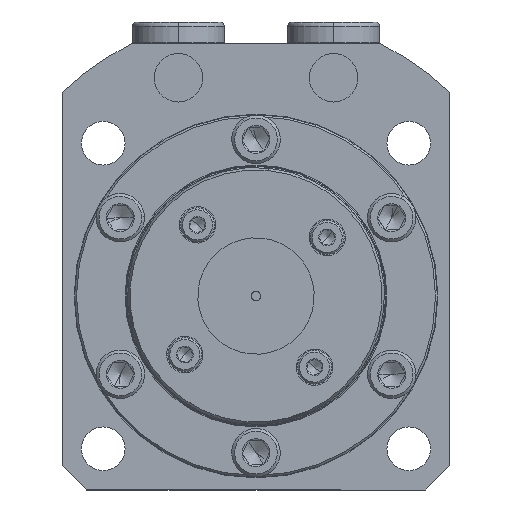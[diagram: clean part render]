
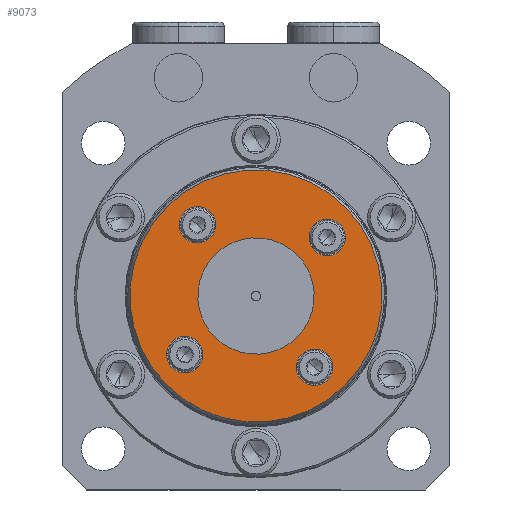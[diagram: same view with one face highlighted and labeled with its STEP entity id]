
A CAD part, front view. The second image highlights one B-rep face of the part: STEP entity #9073.
In plain terms, the highlighted planar face has unit normal (0, -1, 0).
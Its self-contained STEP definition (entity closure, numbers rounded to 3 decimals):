
#1276 = CARTESIAN_POINT ( 'NONE',  ( 0., -92.9, 26. ) ) ;
#1279 = CARTESIAN_POINT ( 'NONE',  ( 0., -92.9, -26. ) ) ;
#1292 = CARTESIAN_POINT ( 'NONE',  ( 13.435, -92.9, -9.685 ) ) ;
#1293 = CARTESIAN_POINT ( 'NONE',  ( 13.435, -92.9, -17.185 ) ) ;
#1296 = CARTESIAN_POINT ( 'NONE',  ( -13.435, -92.9, -9.685 ) ) ;
#1297 = CARTESIAN_POINT ( 'NONE',  ( -13.435, -92.9, -17.185 ) ) ;
#1300 = CARTESIAN_POINT ( 'NONE',  ( -13.435, -92.9, 17.185 ) ) ;
#1301 = CARTESIAN_POINT ( 'NONE',  ( -13.435, -92.9, 9.685 ) ) ;
#1302 = CARTESIAN_POINT ( 'NONE',  ( 0., -92.9, -12. ) ) ;
#1303 = CARTESIAN_POINT ( 'NONE',  ( 0., -92.9, 12. ) ) ;
#1304 = CARTESIAN_POINT ( 'NONE',  ( 13.435, -92.9, 17.185 ) ) ;
#1305 = CARTESIAN_POINT ( 'NONE',  ( 13.435, -92.9, 9.685 ) ) ;
#1490 = CIRCLE ( 'NONE', #1495, 26. ) ;
#1492 = CIRCLE ( 'NONE', #1497, 3.75 ) ;
#1494 = CIRCLE ( 'NONE', #1499, 3.75 ) ;
#1495 = AXIS2_PLACEMENT_3D ( 'NONE', #1855, #1856, #1857 ) ;
#1496 = CIRCLE ( 'NONE', #1501, 3.75 ) ;
#1497 = AXIS2_PLACEMENT_3D ( 'NONE', #1858, #1859, #1860 ) ;
#1498 = CIRCLE ( 'NONE', #1503, 3.75 ) ;
#1499 = AXIS2_PLACEMENT_3D ( 'NONE', #1861, #1862, #1863 ) ;
#1500 = CIRCLE ( 'NONE', #1505, 12. ) ;
#1501 = AXIS2_PLACEMENT_3D ( 'NONE', #1864, #1865, #1866 ) ;
#1503 = AXIS2_PLACEMENT_3D ( 'NONE', #1867, #1868, #1869 ) ;
#1505 = AXIS2_PLACEMENT_3D ( 'NONE', #1870, #1871, #1872 ) ;
#1855 = CARTESIAN_POINT ( 'NONE',  ( 0., -92.9, 0. ) ) ;
#1856 = DIRECTION ( 'NONE',  ( 0., 1., 0. ) ) ;
#1857 = DIRECTION ( 'NONE',  ( 0., 0., 1. ) ) ;
#1858 = CARTESIAN_POINT ( 'NONE',  ( 13.435, -92.9, -13.435 ) ) ;
#1859 = DIRECTION ( 'NONE',  ( 0., -1., 0. ) ) ;
#1860 = DIRECTION ( 'NONE',  ( -1., 0., 0. ) ) ;
#1861 = CARTESIAN_POINT ( 'NONE',  ( -13.435, -92.9, -13.435 ) ) ;
#1862 = DIRECTION ( 'NONE',  ( 0., -1., 0. ) ) ;
#1863 = DIRECTION ( 'NONE',  ( 0., 0., 1. ) ) ;
#1864 = CARTESIAN_POINT ( 'NONE',  ( -13.435, -92.9, 13.435 ) ) ;
#1865 = DIRECTION ( 'NONE',  ( 0., -1., 0. ) ) ;
#1866 = DIRECTION ( 'NONE',  ( 1., 0., 0. ) ) ;
#1867 = CARTESIAN_POINT ( 'NONE',  ( 13.435, -92.9, 13.435 ) ) ;
#1868 = DIRECTION ( 'NONE',  ( 0., -1., 0. ) ) ;
#1869 = DIRECTION ( 'NONE',  ( 0., 0., -1. ) ) ;
#1870 = CARTESIAN_POINT ( 'NONE',  ( 0., -92.9, 0. ) ) ;
#1871 = DIRECTION ( 'NONE',  ( 0., 1., 0. ) ) ;
#1872 = DIRECTION ( 'NONE',  ( 0., 0., 1. ) ) ;
#2476 = CARTESIAN_POINT ( 'NONE',  ( 0., -92.9, 0. ) ) ;
#2477 = DIRECTION ( 'NONE',  ( 0., 1., 0. ) ) ;
#2478 = DIRECTION ( 'NONE',  ( 0., 0., 1. ) ) ;
#2557 = CARTESIAN_POINT ( 'NONE',  ( 13.435, -92.9, -13.435 ) ) ;
#2558 = DIRECTION ( 'NONE',  ( 0., -1., 0. ) ) ;
#2559 = DIRECTION ( 'NONE',  ( -1., 0., 0. ) ) ;
#2569 = CARTESIAN_POINT ( 'NONE',  ( -13.435, -92.9, -13.435 ) ) ;
#2570 = DIRECTION ( 'NONE',  ( 0., -1., 0. ) ) ;
#2571 = DIRECTION ( 'NONE',  ( 0., 0., 1. ) ) ;
#2581 = CARTESIAN_POINT ( 'NONE',  ( -13.435, -92.9, 13.435 ) ) ;
#2582 = DIRECTION ( 'NONE',  ( 0., -1., 0. ) ) ;
#2583 = DIRECTION ( 'NONE',  ( 1., 0., 0. ) ) ;
#2593 = CARTESIAN_POINT ( 'NONE',  ( 13.435, -92.9, 13.435 ) ) ;
#2594 = DIRECTION ( 'NONE',  ( 0., -1., 0. ) ) ;
#2595 = DIRECTION ( 'NONE',  ( 0., 0., -1. ) ) ;
#2598 = CARTESIAN_POINT ( 'NONE',  ( 0., -92.9, 0. ) ) ;
#2599 = DIRECTION ( 'NONE',  ( 0., 1., 0. ) ) ;
#2600 = DIRECTION ( 'NONE',  ( 0., 0., 1. ) ) ;
#2698 = CIRCLE ( 'NONE', #2700, 26. ) ;
#2700 = AXIS2_PLACEMENT_3D ( 'NONE', #2476, #2477, #2478 ) ;
#2706 = CIRCLE ( 'NONE', #2715, 3.75 ) ;
#2713 = CIRCLE ( 'NONE', #2721, 3.75 ) ;
#2715 = AXIS2_PLACEMENT_3D ( 'NONE', #2557, #2558, #2559 ) ;
#2719 = CIRCLE ( 'NONE', #2727, 3.75 ) ;
#2721 = AXIS2_PLACEMENT_3D ( 'NONE', #2569, #2570, #2571 ) ;
#2725 = CIRCLE ( 'NONE', #2733, 3.75 ) ;
#2727 = AXIS2_PLACEMENT_3D ( 'NONE', #2581, #2582, #2583 ) ;
#2733 = AXIS2_PLACEMENT_3D ( 'NONE', #2593, #2594, #2595 ) ;
#2734 = CIRCLE ( 'NONE', #2736, 12. ) ;
#2736 = AXIS2_PLACEMENT_3D ( 'NONE', #2598, #2599, #2600 ) ;
#4056 = FACE_BOUND ( 'NONE', #8660, .T. ) ;
#4057 = FACE_OUTER_BOUND ( 'NONE', #8652, .T. ) ;
#4058 = FACE_BOUND ( 'NONE', #8657, .T. ) ;
#4059 = FACE_BOUND ( 'NONE', #8656, .T. ) ;
#4061 = FACE_BOUND ( 'NONE', #8659, .T. ) ;
#4062 = CARTESIAN_POINT ( 'NONE',  ( -26.5, -92.9, 0. ) ) ;
#4063 = FACE_BOUND ( 'NONE', #8658, .T. ) ;
#4065 = PLANE ( 'NONE',  #4671 ) ;
#4066 = DIRECTION ( 'NONE',  ( 0., -1., 0. ) ) ;
#4067 = DIRECTION ( 'NONE',  ( 0., 0., -1. ) ) ;
#4671 = AXIS2_PLACEMENT_3D ( 'NONE', #4062, #4066, #4067 ) ;
#7874 = VERTEX_POINT ( 'NONE', #1276 ) ;
#7877 = VERTEX_POINT ( 'NONE', #1279 ) ;
#7890 = VERTEX_POINT ( 'NONE', #1292 ) ;
#7891 = VERTEX_POINT ( 'NONE', #1293 ) ;
#7894 = VERTEX_POINT ( 'NONE', #1296 ) ;
#7895 = VERTEX_POINT ( 'NONE', #1297 ) ;
#7898 = VERTEX_POINT ( 'NONE', #1300 ) ;
#7899 = VERTEX_POINT ( 'NONE', #1301 ) ;
#7900 = VERTEX_POINT ( 'NONE', #1302 ) ;
#7901 = VERTEX_POINT ( 'NONE', #1303 ) ;
#7902 = VERTEX_POINT ( 'NONE', #1304 ) ;
#7903 = VERTEX_POINT ( 'NONE', #1305 ) ;
#8023 = EDGE_CURVE ( 'NONE', #7877, #7874, #1490, .T. ) ;
#8024 = EDGE_CURVE ( 'NONE', #7891, #7890, #1492, .T. ) ;
#8025 = EDGE_CURVE ( 'NONE', #7895, #7894, #1494, .T. ) ;
#8026 = EDGE_CURVE ( 'NONE', #7899, #7898, #1496, .T. ) ;
#8027 = EDGE_CURVE ( 'NONE', #7903, #7902, #1498, .T. ) ;
#8028 = EDGE_CURVE ( 'NONE', #7901, #7900, #1500, .T. ) ;
#8155 = EDGE_CURVE ( 'NONE', #7874, #7877, #2698, .T. ) ;
#8168 = EDGE_CURVE ( 'NONE', #7890, #7891, #2706, .T. ) ;
#8172 = EDGE_CURVE ( 'NONE', #7894, #7895, #2713, .T. ) ;
#8176 = EDGE_CURVE ( 'NONE', #7898, #7899, #2719, .T. ) ;
#8180 = EDGE_CURVE ( 'NONE', #7902, #7903, #2725, .T. ) ;
#8182 = EDGE_CURVE ( 'NONE', #7900, #7901, #2734, .T. ) ;
#8652 = EDGE_LOOP ( 'NONE', ( #9455, #9456 ) ) ;
#8656 = EDGE_LOOP ( 'NONE', ( #9457, #9458 ) ) ;
#8657 = EDGE_LOOP ( 'NONE', ( #9465, #9466 ) ) ;
#8658 = EDGE_LOOP ( 'NONE', ( #9461, #9462 ) ) ;
#8659 = EDGE_LOOP ( 'NONE', ( #9459, #9460 ) ) ;
#8660 = EDGE_LOOP ( 'NONE', ( #9463, #9464 ) ) ;
#9073 = ADVANCED_FACE ( 'NONE', ( #4057, #4059, #4061, #4063, #4056, #4058 ), #4065, .T. ) ;
#9455 = ORIENTED_EDGE ( 'NONE', *, *, #8155, .F. ) ;
#9456 = ORIENTED_EDGE ( 'NONE', *, *, #8023, .F. ) ;
#9457 = ORIENTED_EDGE ( 'NONE', *, *, #8024, .F. ) ;
#9458 = ORIENTED_EDGE ( 'NONE', *, *, #8168, .F. ) ;
#9459 = ORIENTED_EDGE ( 'NONE', *, *, #8025, .F. ) ;
#9460 = ORIENTED_EDGE ( 'NONE', *, *, #8172, .F. ) ;
#9461 = ORIENTED_EDGE ( 'NONE', *, *, #8026, .F. ) ;
#9462 = ORIENTED_EDGE ( 'NONE', *, *, #8176, .F. ) ;
#9463 = ORIENTED_EDGE ( 'NONE', *, *, #8027, .F. ) ;
#9464 = ORIENTED_EDGE ( 'NONE', *, *, #8180, .F. ) ;
#9465 = ORIENTED_EDGE ( 'NONE', *, *, #8028, .T. ) ;
#9466 = ORIENTED_EDGE ( 'NONE', *, *, #8182, .T. ) ;
